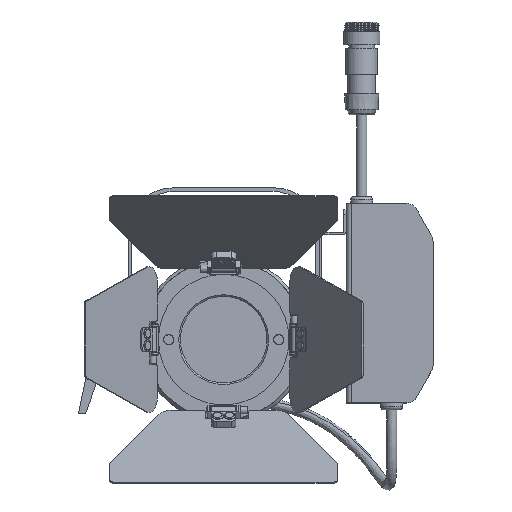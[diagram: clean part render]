
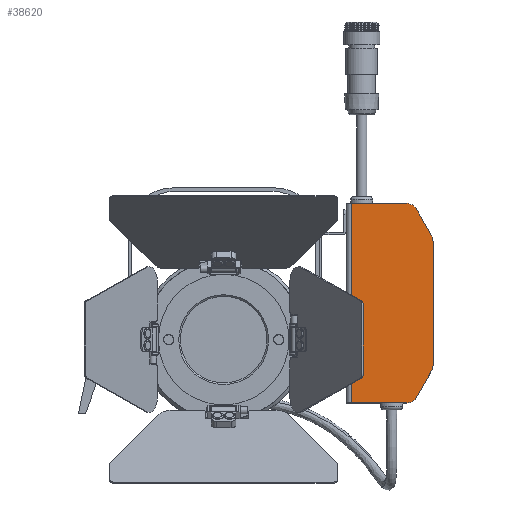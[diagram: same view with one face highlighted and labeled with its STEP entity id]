
A CAD part, top view. The second image highlights one B-rep face of the part: STEP entity #38620.
In plain terms, the highlighted planar face has unit normal (0, 0, 1) as drawn and (0, 0, -1) by its records, which use the part's own axes.
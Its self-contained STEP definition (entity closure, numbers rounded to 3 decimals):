
#706 = ORIENTED_EDGE ( 'NONE', *, *, #42440, .T. ) ;
#1418 = CARTESIAN_POINT ( 'NONE',  ( 35.197, -107.416, -32.4 ) ) ;
#1421 = CARTESIAN_POINT ( 'NONE',  ( 35.197, -107.416, -32.4 ) ) ;
#2074 = CARTESIAN_POINT ( 'NONE',  ( -54.442, -90.915, -32.4 ) ) ;
#3220 = CARTESIAN_POINT ( 'NONE',  ( -57.842, -96.804, -32.4 ) ) ;
#4881 = DIRECTION ( 'NONE',  ( 1., 0., 0. ) ) ;
#5109 = EDGE_CURVE ( 'NONE', #55383, #36795, #7635, .T. ) ;
#5571 = VECTOR ( 'NONE', #55159, 1000. ) ;
#5701 = DIRECTION ( 'NONE',  ( 0., 0., -1. ) ) ;
#6020 = CARTESIAN_POINT ( 'NONE',  ( 57.558, -96.804, -32.4 ) ) ;
#6610 = EDGE_CURVE ( 'NONE', #21379, #52218, #21148, .T. ) ;
#6803 = VECTOR ( 'NONE', #40386, 1000. ) ;
#7069 = FACE_OUTER_BOUND ( 'NONE', #28159, .T. ) ;
#7635 = LINE ( 'NONE', #16133, #5571 ) ;
#8682 = ORIENTED_EDGE ( 'NONE', *, *, #5109, .T. ) ;
#9546 = LINE ( 'NONE', #1421, #40071 ) ;
#10344 = EDGE_CURVE ( 'NONE', #11213, #19906, #51983, .T. ) ;
#10524 = ORIENTED_EDGE ( 'NONE', *, *, #10344, .T. ) ;
#10829 = PLANE ( 'NONE',  #35653 ) ;
#11213 = VERTEX_POINT ( 'NONE', #15908 ) ;
#12703 = ORIENTED_EDGE ( 'NONE', *, *, #30549, .T. ) ;
#14531 = DIRECTION ( 'NONE',  ( -1., 0., 0. ) ) ;
#15671 = CARTESIAN_POINT ( 'NONE',  ( -35.48, -107.416, -32.4 ) ) ;
#15908 = CARTESIAN_POINT ( 'NONE',  ( -61.242, -90.915, -32.4 ) ) ;
#15939 = EDGE_CURVE ( 'NONE', #48518, #44316, #25063, .T. ) ;
#16133 = CARTESIAN_POINT ( 'NONE',  ( -42.911, -105.424, -32.4 ) ) ;
#18505 = CARTESIAN_POINT ( 'NONE',  ( 60.958, -90.915, -32.4 ) ) ;
#19167 = CARTESIAN_POINT ( 'NONE',  ( -42.911, -105.424, -32.4 ) ) ;
#19906 = VERTEX_POINT ( 'NONE', #24201 ) ;
#20111 = DIRECTION ( 'NONE',  ( 0., 0., 1. ) ) ;
#20182 = CARTESIAN_POINT ( 'NONE',  ( 35.197, -92.553, -32.4 ) ) ;
#20362 = DIRECTION ( 'NONE',  ( 0., 0., -1. ) ) ;
#20695 = CIRCLE ( 'NONE', #50023, 6.8 ) ;
#21148 = CIRCLE ( 'NONE', #29843, 6.8 ) ;
#21379 = VERTEX_POINT ( 'NONE', #18505 ) ;
#21485 = VECTOR ( 'NONE', #30053, 1000. ) ;
#21914 = CIRCLE ( 'NONE', #33413, 14.862 ) ;
#22233 = DIRECTION ( 'NONE',  ( 1., 0., 0. ) ) ;
#22282 = CARTESIAN_POINT ( 'NONE',  ( 57.558, -96.804, -32.4 ) ) ;
#22582 = CARTESIAN_POINT ( 'NONE',  ( 60.958, -90.915, -32.4 ) ) ;
#23329 = CARTESIAN_POINT ( 'NONE',  ( -54.442, -56.802, -32.4 ) ) ;
#23499 = ORIENTED_EDGE ( 'NONE', *, *, #51707, .T. ) ;
#23699 = EDGE_CURVE ( 'NONE', #30491, #21379, #32194, .T. ) ;
#24111 = ORIENTED_EDGE ( 'NONE', *, *, #6610, .T. ) ;
#24117 = DIRECTION ( 'NONE',  ( 1., 0., 0. ) ) ;
#24201 = CARTESIAN_POINT ( 'NONE',  ( -61.242, -56.802, -32.4 ) ) ;
#25063 = CIRCLE ( 'NONE', #49720, 14.862 ) ;
#26414 = LINE ( 'NONE', #6020, #41269 ) ;
#28159 = EDGE_LOOP ( 'NONE', ( #10524, #706, #36303, #24111, #43708, #29652, #12703, #40381, #8682, #23499 ) ) ;
#28299 = CARTESIAN_POINT ( 'NONE',  ( 54.158, -90.915, -32.4 ) ) ;
#29652 = ORIENTED_EDGE ( 'NONE', *, *, #15939, .T. ) ;
#29843 = AXIS2_PLACEMENT_3D ( 'NONE', #28299, #49841, #36446 ) ;
#30053 = DIRECTION ( 'NONE',  ( 0., 1., 0. ) ) ;
#30491 = VERTEX_POINT ( 'NONE', #52828 ) ;
#30549 = EDGE_CURVE ( 'NONE', #44316, #30759, #9546, .T. ) ;
#30759 = VERTEX_POINT ( 'NONE', #15671 ) ;
#31305 = DIRECTION ( 'NONE',  ( 0., 0., -1. ) ) ;
#31745 = CARTESIAN_POINT ( 'NONE',  ( -35.48, -92.553, -32.4 ) ) ;
#32194 = LINE ( 'NONE', #22582, #53166 ) ;
#33413 = AXIS2_PLACEMENT_3D ( 'NONE', #31745, #5701, #22233 ) ;
#35653 = AXIS2_PLACEMENT_3D ( 'NONE', #2074, #20111, #24117 ) ;
#36303 = ORIENTED_EDGE ( 'NONE', *, *, #23699, .T. ) ;
#36446 = DIRECTION ( 'NONE',  ( 1., 0., 0. ) ) ;
#36625 = EDGE_CURVE ( 'NONE', #30759, #55383, #21914, .T. ) ;
#36795 = VERTEX_POINT ( 'NONE', #3220 ) ;
#38620 = ADVANCED_FACE ( 'NONE', ( #7069 ), #10829, .F. ) ;
#38713 = LINE ( 'NONE', #23329, #6803 ) ;
#40071 = VECTOR ( 'NONE', #14531, 1000. ) ;
#40381 = ORIENTED_EDGE ( 'NONE', *, *, #36625, .T. ) ;
#40386 = DIRECTION ( 'NONE',  ( 1., 0., 0. ) ) ;
#41269 = VECTOR ( 'NONE', #46052, 1000. ) ;
#42440 = EDGE_CURVE ( 'NONE', #19906, #30491, #38713, .T. ) ;
#42965 = CARTESIAN_POINT ( 'NONE',  ( 42.628, -105.424, -32.4 ) ) ;
#43599 = CARTESIAN_POINT ( 'NONE',  ( -54.442, -90.915, -32.4 ) ) ;
#43708 = ORIENTED_EDGE ( 'NONE', *, *, #49281, .T. ) ;
#44316 = VERTEX_POINT ( 'NONE', #1418 ) ;
#44766 = DIRECTION ( 'NONE',  ( 0., -1., 0. ) ) ;
#46052 = DIRECTION ( 'NONE',  ( -0.866, -0.5, 0. ) ) ;
#47829 = CARTESIAN_POINT ( 'NONE',  ( -61.242, -53.802, -32.4 ) ) ;
#48518 = VERTEX_POINT ( 'NONE', #42965 ) ;
#49281 = EDGE_CURVE ( 'NONE', #52218, #48518, #26414, .T. ) ;
#49720 = AXIS2_PLACEMENT_3D ( 'NONE', #20182, #20362, #50665 ) ;
#49841 = DIRECTION ( 'NONE',  ( 0., 0., -1. ) ) ;
#50023 = AXIS2_PLACEMENT_3D ( 'NONE', #43599, #31305, #4881 ) ;
#50665 = DIRECTION ( 'NONE',  ( 1., 0., 0. ) ) ;
#51707 = EDGE_CURVE ( 'NONE', #36795, #11213, #20695, .T. ) ;
#51983 = LINE ( 'NONE', #47829, #21485 ) ;
#52218 = VERTEX_POINT ( 'NONE', #22282 ) ;
#52828 = CARTESIAN_POINT ( 'NONE',  ( 60.958, -56.802, -32.4 ) ) ;
#53166 = VECTOR ( 'NONE', #44766, 1000. ) ;
#55159 = DIRECTION ( 'NONE',  ( -0.866, 0.5, 0. ) ) ;
#55383 = VERTEX_POINT ( 'NONE', #19167 ) ;
